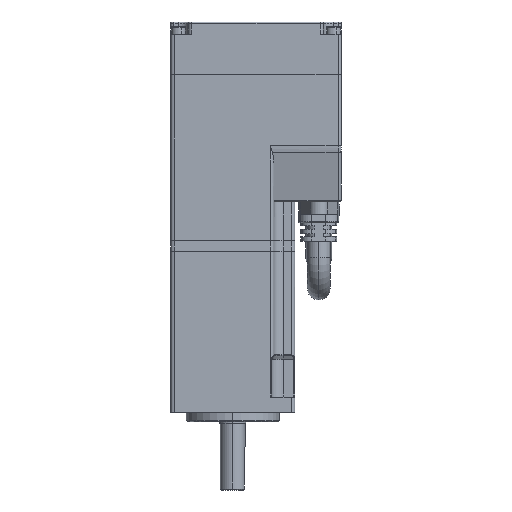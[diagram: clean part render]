
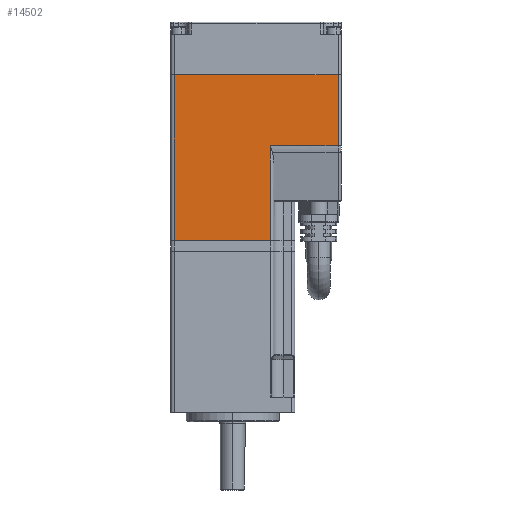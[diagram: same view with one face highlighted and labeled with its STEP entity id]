
A CAD part, left-side view. The second image highlights one B-rep face of the part: STEP entity #14502.
In plain terms, the highlighted planar face has unit normal (-1, 0, 0).
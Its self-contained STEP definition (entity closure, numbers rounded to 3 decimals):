
#10612=DIRECTION('',(0.,0.,1.));
#10613=VECTOR('',#10612,22.981);
#10614=CARTESIAN_POINT('',(-20.,-34.,47.019));
#10615=LINE('',#10614,#10613);
#10616=DIRECTION('',(0.,-1.,0.));
#10617=VECTOR('',#10616,21.84);
#10618=CARTESIAN_POINT('',(-20.,-12.16,47.019));
#10619=LINE('',#10618,#10617);
#10620=DIRECTION('',(0.,1.,0.));
#10621=VECTOR('',#10620,31.06);
#10622=CARTESIAN_POINT('',(-20.,-12.16,16.5));
#10623=LINE('',#10622,#10621);
#10624=DIRECTION('',(0.,-1.,0.));
#10625=VECTOR('',#10624,52.9);
#10626=CARTESIAN_POINT('',(-20.,18.9,70.));
#10627=LINE('',#10626,#10625);
#10748=DIRECTION('',(0.,0.,1.));
#10749=VECTOR('',#10748,30.519);
#10750=CARTESIAN_POINT('',(-20.,-12.16,16.5));
#10751=LINE('',#10750,#10749);
#11284=DIRECTION('',(0.,0.,1.));
#11285=VECTOR('',#11284,53.5);
#11286=CARTESIAN_POINT('',(-20.,18.9,16.5));
#11287=LINE('',#11286,#11285);
#13288=CARTESIAN_POINT('',(-20.,-12.16,47.019));
#13544=CARTESIAN_POINT('',(-20.,18.9,70.));
#13546=VERTEX_POINT('',#13544);
#13640=CARTESIAN_POINT('',(-20.,-12.16,16.5));
#13642=VERTEX_POINT('',#13640);
#13663=CARTESIAN_POINT('',(-20.,18.9,16.5));
#13664=VERTEX_POINT('',#13663);
#14141=VERTEX_POINT('',#13288);
#14161=CARTESIAN_POINT('',(-20.,-34.,70.));
#14163=VERTEX_POINT('',#14161);
#14167=CARTESIAN_POINT('',(-20.,-34.,47.019));
#14168=VERTEX_POINT('',#14167);
#14483=CARTESIAN_POINT('',(-20.,-35.,70.));
#14484=DIRECTION('',(-1.,0.,0.));
#14485=DIRECTION('',(0.,1.,0.));
#14486=AXIS2_PLACEMENT_3D('',#14483,#14484,#14485);
#14487=PLANE('',#14486);
#14489=ORIENTED_EDGE('',*,*,#14488,.F.);
#14491=ORIENTED_EDGE('',*,*,#14490,.F.);
#14493=ORIENTED_EDGE('',*,*,#14492,.F.);
#14495=ORIENTED_EDGE('',*,*,#14494,.T.);
#14497=ORIENTED_EDGE('',*,*,#14496,.T.);
#14499=ORIENTED_EDGE('',*,*,#14498,.T.);
#14500=EDGE_LOOP('',(#14489,#14491,#14493,#14495,#14497,#14499));
#14501=FACE_OUTER_BOUND('',#14500,.F.);
#14502=ADVANCED_FACE('',(#14501),#14487,.T.);
#14488=EDGE_CURVE('',#14168,#14163,#10615,.T.);
#14490=EDGE_CURVE('',#14141,#14168,#10619,.T.);
#14492=EDGE_CURVE('',#13642,#14141,#10751,.T.);
#14494=EDGE_CURVE('',#13642,#13664,#10623,.T.);
#14496=EDGE_CURVE('',#13664,#13546,#11287,.T.);
#14498=EDGE_CURVE('',#13546,#14163,#10627,.T.);
